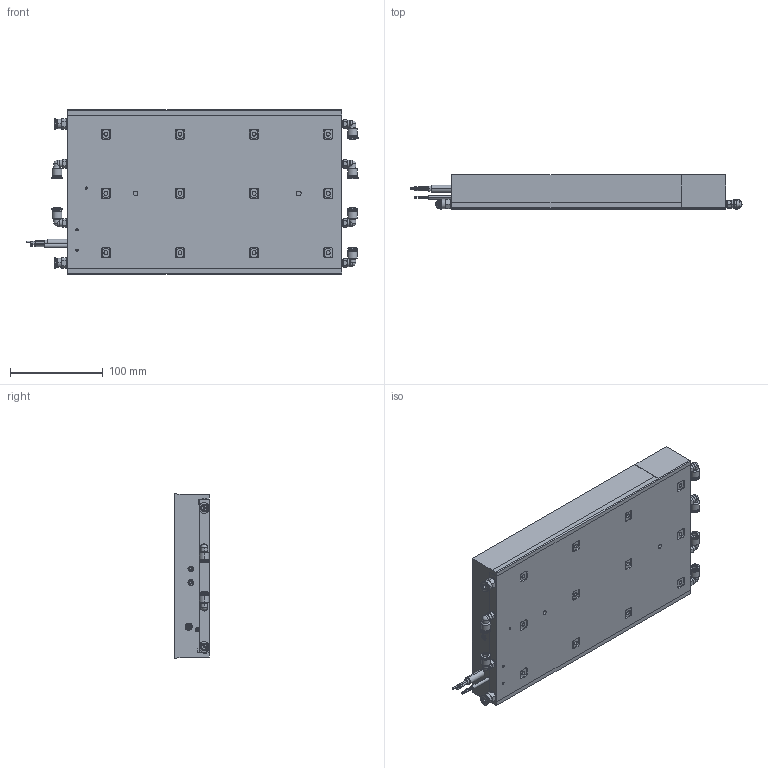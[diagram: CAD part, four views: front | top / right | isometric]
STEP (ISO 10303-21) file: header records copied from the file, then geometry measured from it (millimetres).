
FILE_DESCRIPTION (( 'STEP AP203' ), '1' );
FILE_NAME ('IC177WC-15 3D.STEP', '2021-12-13T02:11:04', ( '' ), ( '' ), 'SwSTEP 2.0', 'SolidWorks 2021', '' );
FILE_SCHEMA (( 'CONFIG_CONTROL_DESIGN' ));
Length unit declared in the file: millimetre
Products named in the file (1): IC177WC-15 3D
Bounding box: 358.4 x 37 x 177.15 mm (x, y, z)
Volume: 1931543.4 mm3; surface area: 308368.6 mm2
Topology: 19 solids, 19 shells, 1155 faces, 2786 edges, 1698 vertices
Faces by surface type: cylinder 417, plane 416, cone 234, torus 58, sphere 30
Entity records: 34533 total; most frequent: CARTESIAN_POINT 7328, DIRECTION 5858, ORIENTED_EDGE 5512, EDGE_CURVE 2756, AXIS2_PLACEMENT_3D 2248, VERTEX_POINT 1698, VECTOR 1362, LINE 1362
